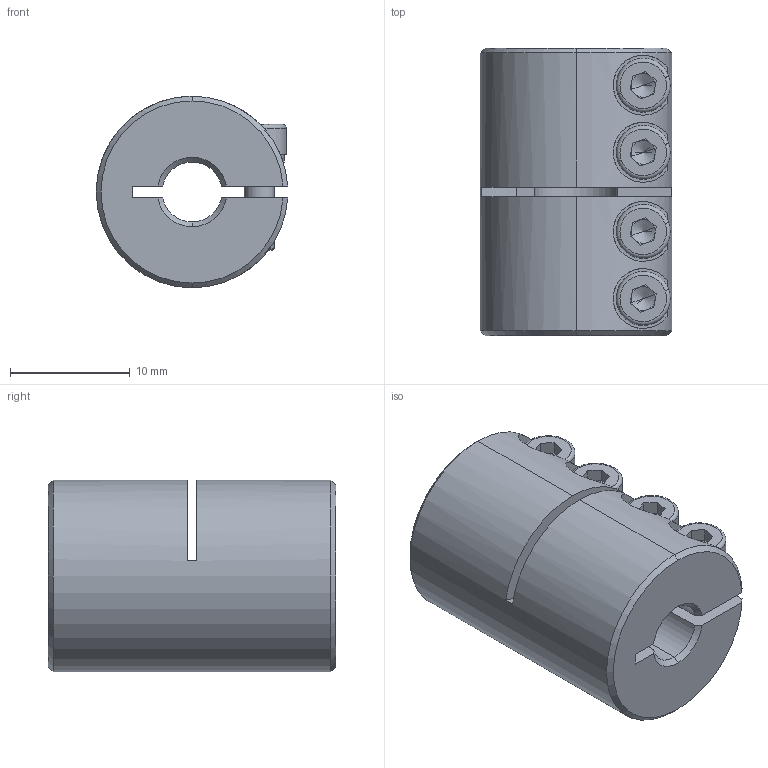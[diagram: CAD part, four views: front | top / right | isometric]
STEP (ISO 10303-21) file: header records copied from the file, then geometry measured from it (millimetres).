
FILE_DESCRIPTION (( 'STEP AP203' ), '1' );
FILE_NAME ('LL-B-D16L24-5-7.STEP', '2021-11-03T04:33:05', ( '' ), ( '' ), 'SwSTEP 2.0', 'SolidWorks 2018', '' );
FILE_SCHEMA (( 'CONFIG_CONTROL_DESIGN' ));
Length unit declared in the file: millimetre
Products named in the file (1): LL-B-D16L24-5-7
Bounding box: 15.98 x 24 x 16 mm (x, y, z)
Volume: 3808.5 mm3; surface area: 2933.4 mm2
Topology: 1 solids, 1 shells, 205 faces, 527 edges, 328 vertices
Faces by surface type: plane 92, cylinder 77, cone 28, torus 8
Entity records: 6642 total; most frequent: CARTESIAN_POINT 1521, DIRECTION 1103, ORIENTED_EDGE 1038, EDGE_CURVE 519, AXIS2_PLACEMENT_3D 430, VERTEX_POINT 328, VECTOR 243, LINE 243
